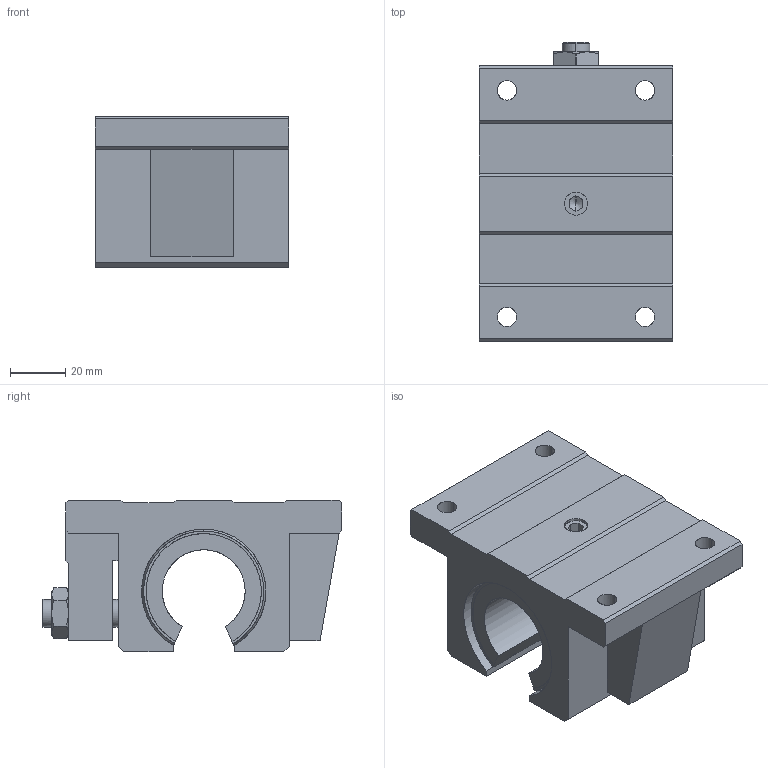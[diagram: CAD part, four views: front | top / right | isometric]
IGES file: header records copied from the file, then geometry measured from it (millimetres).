
Global section: file name: No Iges File Name specified; native system: AutoDesk Inventor R10; preprocessor: AutoDesk Inventor Iges Exporter R10; author: No Author specified; organization: No Organization specified; date: 20101221.092043; units: millimetre
Bounding box: 70 x 108.5 x 55 mm (x, y, z)
Surface area: 40078.6 mm2 (no closed solid volume)
Topology: 0 solids, 0 shells, 136 faces, 890 edges, 886 vertices
Faces by surface type: bspline 136
